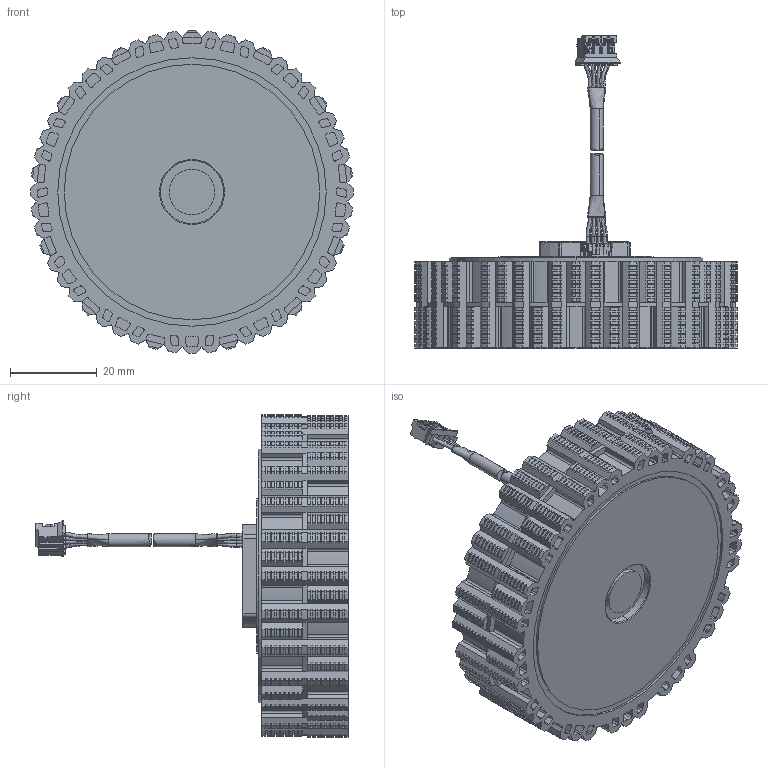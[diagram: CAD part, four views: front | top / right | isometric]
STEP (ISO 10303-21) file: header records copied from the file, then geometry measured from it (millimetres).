
FILE_DESCRIPTION (( 'STEP AP203' ), '1' );
FILE_NAME ('M0603 3D.STEP', '2025-02-19T10:56:11', ( '' ), ( '' ), 'SwSTEP 2.0', 'SolidWorks 2022', '' );
FILE_SCHEMA (( 'CONFIG_CONTROL_DESIGN' ));
Length unit declared in the file: millimetre
Products named in the file (18): DDTF02000701-端盖; BM.WJ.AA00023.02 M0603A_111 转轴; BM.WJ.AL00005.01 M0603A_111垫圈; BM.WJ.AK00002.01  M0603A_111螺母; BC.ZM.DZ00002.01 M0603A_111铁心组件; 端子1068-M; DDTB11000401-轮胎组件; 包胶【13对齿；无螺丝孔；缓冲孔深度和大小加胶；去薄钢；撤销加胶】 20240817; M0603A_411 裸机; A2001-H04; M63线材&套管4PIN_A; DDTB07001101-端盖组件; M0603 3D; BM.SJ.AA00098.01  M0603B_111铁心包胶骨架; M63A 新增型号通用定子组件; M0603A_411 转子组件; BC.ZM.JG00022.01 M63A_111 线束组件; 石头_铁芯绕组组件
Assembly tree (17 placements, depth 6):
  M0603 3D
    M0603A_411 裸机
      M63A 新增型号通用定子组件
        石头_铁芯绕组组件
          BC.ZM.DZ00002.01 M0603A_111铁心组件
            BM.SJ.AA00098.01  M0603B_111铁心包胶骨架
      M0603A_411 转子组件
        BM.WJ.AA00023.02 M0603A_111 转轴
      BM.WJ.AK00002.01  M0603A_111螺母
      BM.WJ.AL00005.01 M0603A_111垫圈
    BC.ZM.JG00022.01 M63A_111 线束组件
      M63线材&套管4PIN_A
      端子1068-M
      A2001-H04
    DDTB11000401-轮胎组件
      包胶【13对齿；无螺丝孔；缓冲孔深度和大小加胶；去薄钢；撤销加胶】 20240817
    DDTB07001101-端盖组件
      DDTF02000701-端盖
Bounding box: 74.5 x 72.15 x 74.5 mm (x, y, z)
Volume: 87807.8 mm3; surface area: 38122.9 mm2
Topology: 14 solids, 62 shells, 5487 faces, 15765 edges, 10371 vertices
Faces by surface type: cylinder 2146, plane 2051, bspline 1261, torus 27, cone 2
Entity records: 190573 total; most frequent: CARTESIAN_POINT 52623, ORIENTED_EDGE 30952, DIRECTION 24982, EDGE_CURVE 15765, VERTEX_POINT 10371, AXIS2_PLACEMENT_3D 8588, LINE 7806, VECTOR 7806
